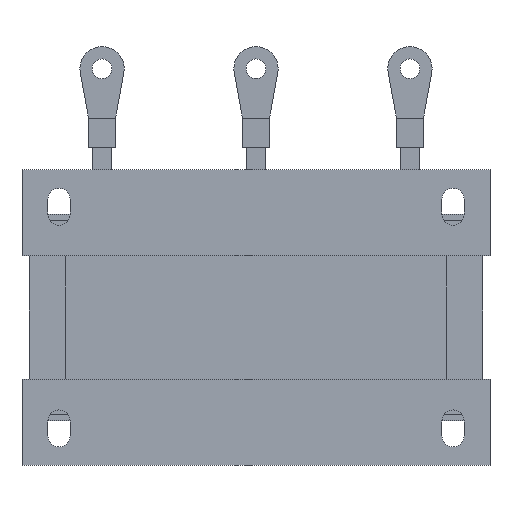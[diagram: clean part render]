
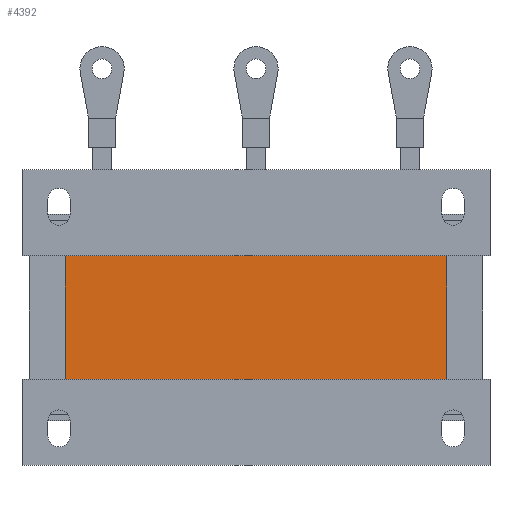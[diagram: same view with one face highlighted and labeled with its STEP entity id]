
A CAD part, front view. The second image highlights one B-rep face of the part: STEP entity #4392.
In plain terms, the highlighted planar face has unit normal (0, -1, 0).
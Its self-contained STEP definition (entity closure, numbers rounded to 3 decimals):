
#98=PLANE('',#4717);
#312=FACE_OUTER_BOUND('',#574,.T.);
#574=EDGE_LOOP('',(#3155,#3156,#3157,#3158));
#899=LINE('',#6485,#1421);
#900=LINE('',#6487,#1422);
#901=LINE('',#6489,#1423);
#902=LINE('',#6490,#1424);
#1421=VECTOR('',#5202,10.);
#1422=VECTOR('',#5203,10.);
#1423=VECTOR('',#5204,10.);
#1424=VECTOR('',#5205,10.);
#2049=VERTEX_POINT('',#6483);
#2050=VERTEX_POINT('',#6484);
#2051=VERTEX_POINT('',#6486);
#2052=VERTEX_POINT('',#6488);
#2491=EDGE_CURVE('',#2049,#2050,#899,.T.);
#2492=EDGE_CURVE('',#2051,#2049,#900,.T.);
#2493=EDGE_CURVE('',#2052,#2051,#901,.T.);
#2494=EDGE_CURVE('',#2050,#2052,#902,.T.);
#3155=ORIENTED_EDGE('',*,*,#2491,.F.);
#3156=ORIENTED_EDGE('',*,*,#2492,.F.);
#3157=ORIENTED_EDGE('',*,*,#2493,.F.);
#3158=ORIENTED_EDGE('',*,*,#2494,.F.);
#4392=ADVANCED_FACE('',(#312),#98,.F.);
#4717=AXIS2_PLACEMENT_3D('',#6482,#5200,#5201);
#5200=DIRECTION('center_axis',(0.,1.,0.));
#5201=DIRECTION('ref_axis',(0.,0.,1.));
#5202=DIRECTION('',(1.,0.,0.));
#5203=DIRECTION('',(0.,0.,1.));
#5204=DIRECTION('',(-1.,0.,0.));
#5205=DIRECTION('',(0.,0.,-1.));
#6482=CARTESIAN_POINT('Origin',(0.,2.,0.));
#6483=CARTESIAN_POINT('',(-77.5,2.,25.));
#6484=CARTESIAN_POINT('',(77.5,2.,25.));
#6485=CARTESIAN_POINT('',(77.5,2.,25.));
#6486=CARTESIAN_POINT('',(-77.5,2.,-25.));
#6487=CARTESIAN_POINT('',(-77.5,2.,-12.5));
#6488=CARTESIAN_POINT('',(77.5,2.,-25.));
#6489=CARTESIAN_POINT('',(-77.5,2.,-25.));
#6490=CARTESIAN_POINT('',(77.5,2.,12.5));
